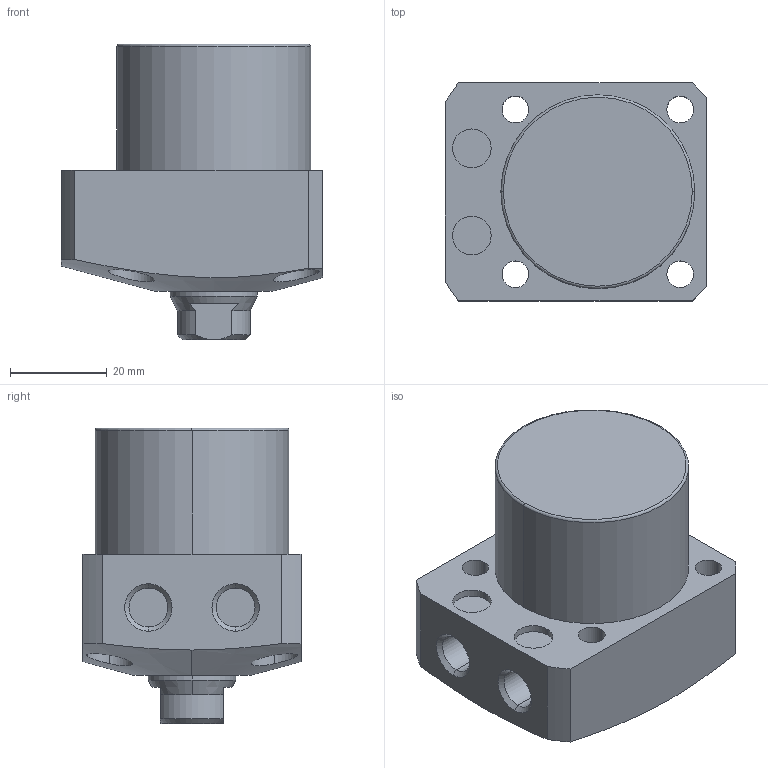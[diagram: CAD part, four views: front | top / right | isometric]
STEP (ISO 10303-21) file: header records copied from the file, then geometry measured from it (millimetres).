
FILE_DESCRIPTION (( 'STEP AP203' ), '1' );
FILE_NAME ('CLL-040CA-015.STEP', '2019-12-20T01:57:32', ( '' ), ( '' ), 'SwSTEP 2.0', 'SolidWorks 2015', '' );
FILE_SCHEMA (( 'CONFIG_CONTROL_DESIGN' ));
Length unit declared in the file: millimetre
Products named in the file (1): CLL-040CA-015
Bounding box: 54 x 45 x 61 mm (x, y, z)
Volume: 84118.6 mm3; surface area: 15166.5 mm2
Topology: 1 solids, 1 shells, 74 faces, 170 edges, 107 vertices
Faces by surface type: cylinder 35, plane 22, cone 15, torus 2
Entity records: 2512 total; most frequent: CARTESIAN_POINT 725, DIRECTION 374, ORIENTED_EDGE 336, EDGE_CURVE 168, AXIS2_PLACEMENT_3D 155, VERTEX_POINT 107, EDGE_LOOP 93, CIRCLE 80
